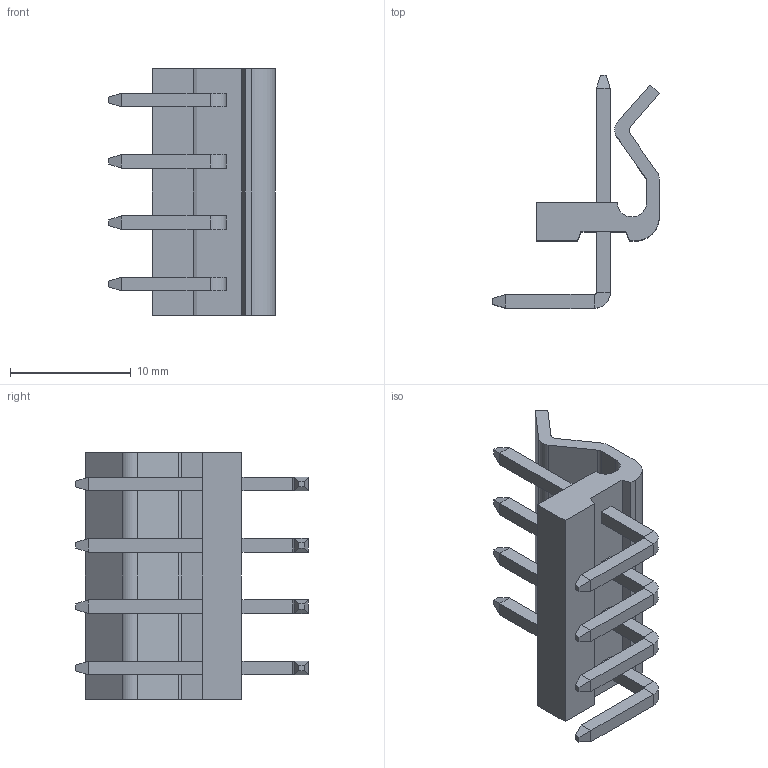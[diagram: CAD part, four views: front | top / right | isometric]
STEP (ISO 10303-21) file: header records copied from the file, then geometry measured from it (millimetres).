
FILE_DESCRIPTION (( 'STEP AP214' ), '1' );
FILE_NAME ('4871-04TRB.STEP', '2016-12-28T06:16:51', ( 'RD05' ), ( '' ), 'SwSTEP 2.0', 'SolidWorks 2011', '' );
FILE_SCHEMA (( 'AUTOMOTIVE_DESIGN' ));
Length unit declared in the file: millimetre
Products named in the file (3): 端子; 零件1; 4871-04TRB
Assembly tree (5 placements, depth 2):
  4871-04TRB
    端子  x4
    零件1
Bounding box: 13.8 x 19.27 x 20.38 mm (x, y, z)
Volume: 903.4 mm3; surface area: 1568.1 mm2
Topology: 9 solids, 9 shells, 134 faces, 284 edges, 168 vertices
Faces by surface type: plane 120, cylinder 14
Entity records: 1531 total; most frequent: DIRECTION 248, CARTESIAN_POINT 246, ORIENTED_EDGE 232, EDGE_CURVE 116, LINE 100, VECTOR 100, AXIS2_PLACEMENT_3D 74, VERTEX_POINT 72
